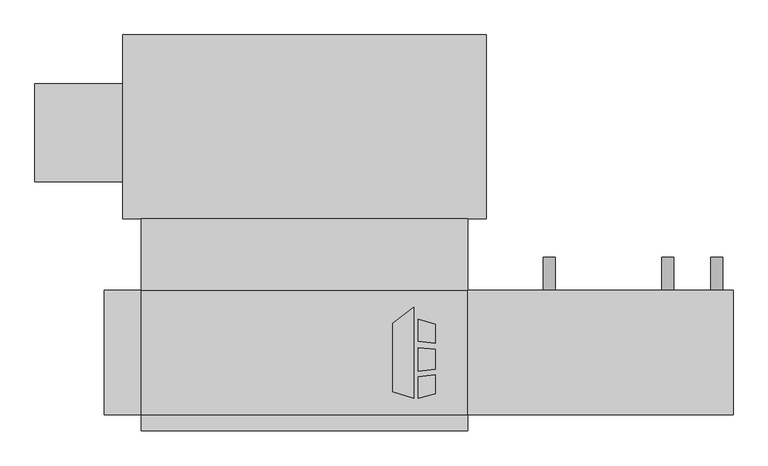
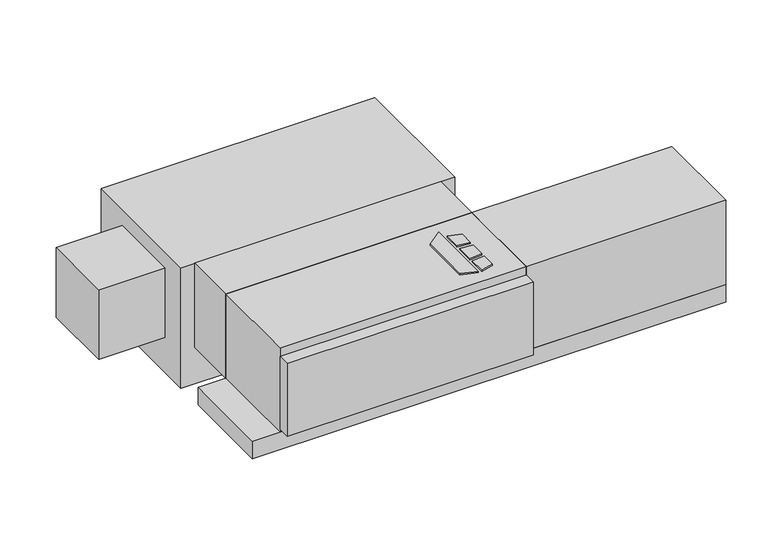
"""IFC4 building model written with IfcOpenShell, lengths in millimetres: proxy geometry, Concealed_Horizontal_Fan_Coil_Unit_With_Plenum_-_CPF_-_IEC_-_4-Pipe_RH : Size 03 - 115v/60Hz/1Ph - 4/1 Coil."""

from ifc_helpers import new_model, si_unit, point, frame, frame_2d, origin, origin_with_axes, place, context, project, spatial, polyline, circle_curve, trimmed, segment, composite_curve, outline, extrude, source, transform, mapped, element, save


def mechanical_equipment_afab2d6e(model_context):
    return source(origin(), model_context, "Body", "SweptSolid", [
        extrude(outline(polyline([(290.2019761, -193.0453476), (322.7602728, -167.6080184), (322.7602728, -309.5625), (290.2019761, -299.3429201), (290.2019761, -193.0453476)])), origin_with_axes(), (0.0, 0.0, 1.0), 3.175),
        extrude(outline(polyline([(329.5186058, -220.917352), (329.5186058, -186.4374379), (355.6, -194.6240115), (355.6, -224.1197446), (329.5186058, -220.917352)])), origin_with_axes(), (0.0, 0.0, 1.0), 3.175),
        extrude(outline(polyline([(355.6, -302.5740115), (329.5186058, -309.5625), (329.5186058, -276.3411996), (355.6, -272.7993564), (355.6, -302.5740115)])), origin_with_axes(), (0.0, 0.0, 1.0), 3.175),
        extrude(outline(polyline([(355.6, -233.2013277), (355.6, -264.451483), (329.5186058, -267.192748), (329.5186058, -231.3350378), (355.6, -233.2013277)])), origin_with_axes(), (0.0, 0.0, 1.0), 3.175),
        extrude(outline(polyline([(-101.6, -30.1625), (406.4, -30.1625), (406.4, -141.2875), (-101.6, -141.2875), (-101.6, -30.1625)])), frame((0.0, 0.0, -184.15), z_axis=(0.0, 0.0, 1.0), x_axis=(1.0, 0.0, 0.0)), (0.0, 0.0, 1.0), 184.15),
        extrude(outline(composite_curve([segment(trimmed(circle_curve(frame_2d((-158.75, 717.55)), 9.525), [point((-158.75, 727.075))], [point((-158.75, 708.025))], False, "CARTESIAN"), True, "CONTINUOUS"), segment(trimmed(circle_curve(frame_2d((-158.75, 717.55)), 9.525), [point((-158.75, 708.025))], [point((-158.75, 727.075))], False, "CARTESIAN"), True, "CONTINUOUS")], self_intersect=False)), frame((0.0, -141.2875, 0.0), z_axis=(0.0, 1.0, 0.0), x_axis=(0.0, 0.0, 1.0)), (0.0, 0.0, 1.0), 50.8),
        extrude(outline(composite_curve([segment(trimmed(circle_curve(frame_2d((-69.85, 717.55)), 9.525), [point((-69.85, 727.075))], [point((-69.85, 708.025))], False, "CARTESIAN"), True, "CONTINUOUS"), segment(trimmed(circle_curve(frame_2d((-69.85, 717.55)), 9.525), [point((-69.85, 708.025))], [point((-69.85, 727.075))], False, "CARTESIAN"), True, "CONTINUOUS")], self_intersect=False)), frame((0.0, -141.2875, 0.0), z_axis=(0.0, 1.0, 0.0), x_axis=(0.0, 0.0, 1.0)), (0.0, 0.0, 1.0), 50.8),
        extrude(outline(composite_curve([segment(trimmed(circle_curve(frame_2d((-69.85, 533.4)), 9.525), [point((-69.85, 542.925))], [point((-69.85, 523.875))], False, "CARTESIAN"), True, "CONTINUOUS"), segment(trimmed(circle_curve(frame_2d((-69.85, 533.4)), 9.525), [point((-69.85, 523.875))], [point((-69.85, 542.925))], False, "CARTESIAN"), True, "CONTINUOUS")], self_intersect=False)), frame((0.0, -141.2875, 0.0), z_axis=(0.0, 1.0, 0.0), x_axis=(0.0, 0.0, 1.0)), (0.0, 0.0, 1.0), 50.8),
        extrude(outline(composite_curve([segment(trimmed(circle_curve(frame_2d((-158.75, 533.4)), 9.525), [point((-158.75, 542.925))], [point((-158.75, 523.875))], False, "CARTESIAN"), True, "CONTINUOUS"), segment(trimmed(circle_curve(frame_2d((-158.75, 533.4)), 9.525), [point((-158.75, 523.875))], [point((-158.75, 542.925))], False, "CARTESIAN"), True, "CONTINUOUS")], self_intersect=False)), frame((0.0, -141.2875, 0.0), z_axis=(0.0, 1.0, 0.0), x_axis=(0.0, 0.0, 1.0)), (0.0, 0.0, 1.0), 50.8),
        extrude(outline(polyline([(819.15, -141.2875), (819.15, -334.9625), (406.4, -334.9625), (406.4, -141.2875), (819.15, -141.2875)])), frame((0.0, 0.0, -184.15), z_axis=(0.0, 0.0, 1.0), x_axis=(1.0, 0.0, 0.0)), (0.0, 0.0, 1.0), 184.15),
        extrude(outline(composite_curve([segment(trimmed(circle_curve(frame_2d((-209.55, 793.75)), 9.525), [point((-209.55, 784.225))], [point((-209.55, 803.275))], False, "CARTESIAN"), True, "CONTINUOUS"), segment(trimmed(circle_curve(frame_2d((-209.55, 793.75)), 9.525), [point((-209.55, 803.275))], [point((-209.55, 784.225))], False, "CARTESIAN"), True, "CONTINUOUS")], self_intersect=False)), frame((0.0, -141.2875, 0.0), z_axis=(0.0, 1.0, 0.0), x_axis=(0.0, 0.0, 1.0)), (0.0, 0.0, 1.0), 50.8),
        extrude(outline(polyline([(406.4, -334.9625), (406.4, -360.3625), (-101.6, -360.3625), (-101.6, -334.9625), (406.4, -334.9625)])), frame((0.0, 0.0, -177.8), z_axis=(0.0, 0.0, 1.0), x_axis=(1.0, 0.0, 0.0)), (0.0, 0.0, 1.0), 158.75),
        extrude(outline(polyline([(406.4, -334.9625), (-101.6, -334.9625), (-101.6, -141.2875), (406.4, -141.2875), (406.4, -334.9625)])), frame((0.0, 0.0, -184.15), z_axis=(0.0, 0.0, 1.0), x_axis=(1.0, 0.0, 0.0)), (0.0, 0.0, 1.0), 184.15),
        extrude(outline(polyline([(819.15, -141.2875), (819.15, -334.9625), (-158.75, -334.9625), (-158.75, -141.2875), (819.15, -141.2875)])), frame((0.0, 0.0, -222.25), z_axis=(0.0, 0.0, 1.0), x_axis=(1.0, 0.0, 0.0)), (0.0, 0.0, 1.0), 38.1),
        extrude(outline(polyline([(-266.7, 26.9875), (-266.7, 179.3875), (-130.175, 179.3875), (-130.175, 26.9875), (-266.7, 26.9875)])), frame((0.0, 0.0, -187.325), z_axis=(0.0, 0.0, 1.0), x_axis=(1.0, 0.0, 0.0)), (0.0, 0.0, 1.0), 152.4),
        extrude(outline(polyline([(-130.175, 255.5875), (434.975, 255.5875), (434.975, -30.1625), (-130.175, -30.1625), (-130.175, 255.5875)])), frame((0.0, 0.0, -263.525), z_axis=(0.0, 0.0, 1.0), x_axis=(1.0, 0.0, 0.0)), (0.0, 0.0, 1.0), 263.525),
    ])


if __name__ == "__main__":
    model = new_model("IFC4")
    model_context = context("Model", 3, world=origin())
    ifc_project = project(units=[si_unit("LENGTHUNIT", "METRE", prefix="MILLI")], contexts=[model_context])
    site = spatial("IfcSite", under=ifc_project)
    building = spatial("IfcBuilding", under=site)
    placement = place(None, origin())
    mechanical_equipment_shape = mechanical_equipment_afab2d6e(model_context)
    element("IfcBuildingElementProxy", 1, Name="Concealed_Horizontal_Fan_Coil_Unit_With_Plenum_-_CPF_-_IEC_-_4-Pipe_RH : Size 03 - 115v/60Hz/1Ph - 4/1 Coil", ObjectType="Concealed_Horizontal_Fan_Coil_Unit_With_Plenum_-_CPF_-_IEC_-_4-Pipe_RH : Size 03 - 115v/60Hz/1Ph - 4/1 Coil", at=placement, inside=building, context=model_context, shape_type="MappedRepresentation", body=[
        mapped(mechanical_equipment_shape, transform((0.0, 0.0, 0.0), x_axis=(1.0, 0.0, 0.0), y_axis=(0.0, 1.0, 0.0), z_axis=(0.0, 0.0, 1.0))),
    ])
    save(model, "model.ifc")
